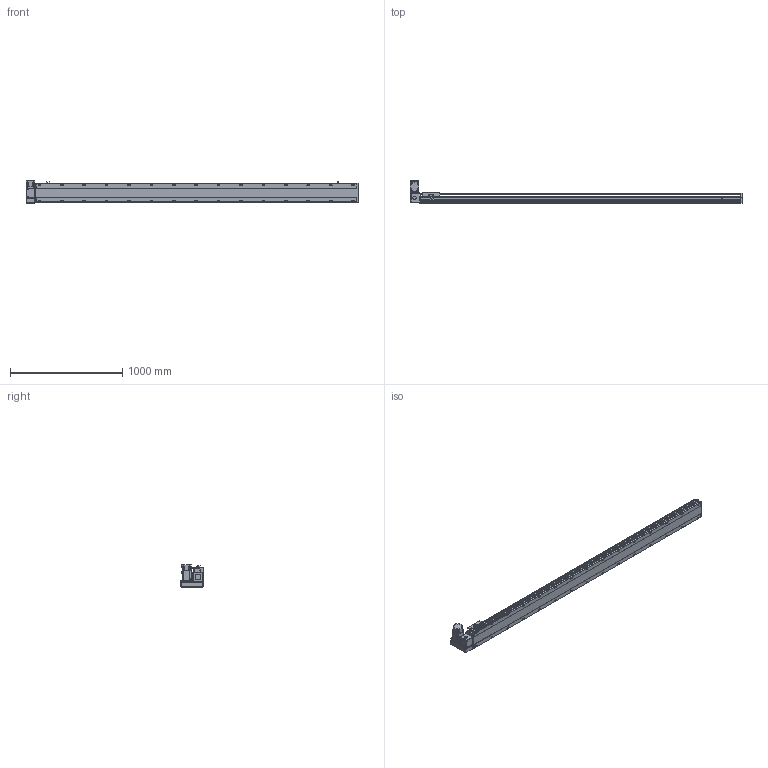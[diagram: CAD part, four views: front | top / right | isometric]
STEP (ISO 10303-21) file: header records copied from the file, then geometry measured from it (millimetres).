
FILE_DESCRIPTION(/* description */ ('STEP AP214'),/* implementation_level */ '2;1');
FILE_NAME(/* name */ 'PBS170-P40-S2600-LU-T75-C1-N(0)',/* time_stamp */ '2022-06-07T10:17:32+02:00',/* author */ ('License CC BY-ND 4.0'),/* organization */ ('CADENAS'),/* preprocessor_version */ 'ST-DEVELOPER v18.102',/* originating_system */ 'PARTsolutions',/* authorisation */ ' ');
FILE_SCHEMA (('TECHNICAL_DATA_PACKAGING','MODEL_BASED_INTEGRATED_MANUFACTURING_SCHEMA','AUTOMOTIVE_DESIGN {1 0 10303 214 3 1 1}'));
Length unit declared in the file: millimetre
Products named in the file (7): PBS170-P40-S2600-LU-T75-C1-N(0); PBS170_sensor; PBS170_plant; PBS170_sliser; T75-p1; PBS170T-LU_motors; PBS170-S2600()_body
Assembly tree (8 placements, depth 2):
  PBS170-P40-S2600-LU-T75-C1-N(0)
    PBS170_sensor  x3
    PBS170_plant
    PBS170_sliser
    T75-p1
    PBS170T-LU_motors
    PBS170-S2600()_body
Bounding box: 2963 x 206 x 197.3 mm (x, y, z)
Volume: 22393144.2 mm3; surface area: 2814760.3 mm2
Topology: 8 solids, 8 shells, 1194 faces, 3155 edges, 2056 vertices
Faces by surface type: plane 729, cylinder 395, cone 60, sphere 8, torus 2
Full cylindrical faces by diameter (mm): 3.242 x4, 4 x2, 4.4 x4, 4.5 x6, 4.917 x4, 6 x9, 6.647 x38, 7 x2, 7.5 x4, 8 x8, 8.5 x30, 10 x4, 10.5 x30, 11 x2, 30 x2, 40 x1, 70 x1
Entity records: 34324 total; most frequent: CARTESIAN_POINT 6497, DIRECTION 5790, ORIENTED_EDGE 5448, EDGE_CURVE 2724, AXIS2_PLACEMENT_3D 2047, VERTEX_POINT 1898, LINE 1696, VECTOR 1696
